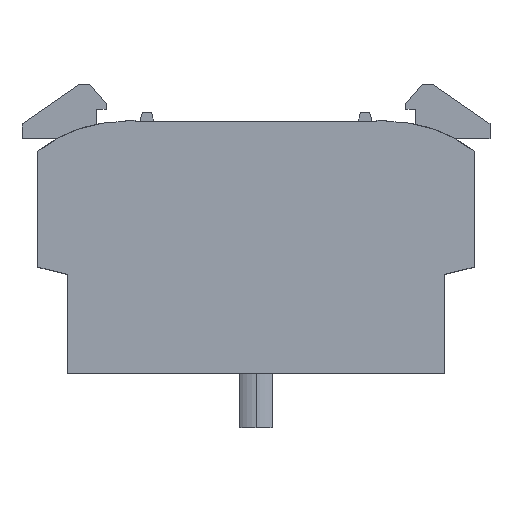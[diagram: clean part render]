
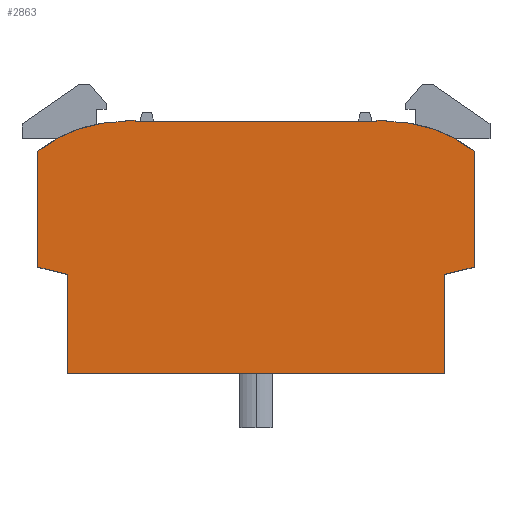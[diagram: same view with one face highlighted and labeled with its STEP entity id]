
A CAD part, top view. The second image highlights one B-rep face of the part: STEP entity #2863.
In plain terms, the highlighted planar face has unit normal (0, 0, 1).
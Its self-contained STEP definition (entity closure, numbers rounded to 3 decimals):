
#343 = ORIENTED_EDGE ( 'NONE', *, *, #2521, .T. ) ;
#344 = ORIENTED_EDGE ( 'NONE', *, *, #2524, .T. ) ;
#345 = ORIENTED_EDGE ( 'NONE', *, *, #2527, .T. ) ;
#346 = ORIENTED_EDGE ( 'NONE', *, *, #1746, .T. ) ;
#347 = ORIENTED_EDGE ( 'NONE', *, *, #2310, .T. ) ;
#348 = ORIENTED_EDGE ( 'NONE', *, *, #1749, .T. ) ;
#349 = ORIENTED_EDGE ( 'NONE', *, *, #1752, .T. ) ;
#350 = ORIENTED_EDGE ( 'NONE', *, *, #1755, .T. ) ;
#351 = ORIENTED_EDGE ( 'NONE', *, *, #1761, .T. ) ;
#352 = ORIENTED_EDGE ( 'NONE', *, *, #2295, .T. ) ;
#353 = ORIENTED_EDGE ( 'NONE', *, *, #1765, .T. ) ;
#354 = ORIENTED_EDGE ( 'NONE', *, *, #1768, .T. ) ;
#355 = ORIENTED_EDGE ( 'NONE', *, *, #1737, .T. ) ;
#356 = ORIENTED_EDGE ( 'NONE', *, *, #1770, .T. ) ;
#357 = ORIENTED_EDGE ( 'NONE', *, *, #2493, .T. ) ;
#358 = ORIENTED_EDGE ( 'NONE', *, *, #2508, .T. ) ;
#1151 = LINE ( 'NONE', #1152, #4851 ) ;
#1152 = CARTESIAN_POINT ( 'NONE',  ( -22., -3., 4.95 ) ) ;
#1153 = DIRECTION ( 'NONE',  ( 0., -1., 0. ) ) ;
#1196 = LINE ( 'NONE', #1197, #4866 ) ;
#1197 = CARTESIAN_POINT ( 'NONE',  ( -12.2, 0., 4.95 ) ) ;
#1198 = DIRECTION ( 'NONE',  ( -1., 0., 0. ) ) ;
#1209 = CARTESIAN_POINT ( 'NONE',  ( -22., -3., 4.95 ) ) ;
#1213 = CARTESIAN_POINT ( 'NONE',  ( -12.2, 0., 4.95 ) ) ;
#1216 = CARTESIAN_POINT ( 'NONE',  ( 22., -14.7, 4.95 ) ) ;
#1220 = CARTESIAN_POINT ( 'NONE',  ( 12.2, 0., 4.95 ) ) ;
#1225 = CARTESIAN_POINT ( 'NONE',  ( 19., -15.448, 4.95 ) ) ;
#1236 = CARTESIAN_POINT ( 'NONE',  ( 22., -3., 4.95 ) ) ;
#1238 = CARTESIAN_POINT ( 'NONE',  ( 13.2, 0., 4.95 ) ) ;
#1241 = CARTESIAN_POINT ( 'NONE',  ( -13.2, 0.1, 4.95 ) ) ;
#1243 = CARTESIAN_POINT ( 'NONE',  ( -13.2, 0., 4.95 ) ) ;
#1244 = CARTESIAN_POINT ( 'NONE',  ( -19., -15.448, 4.95 ) ) ;
#1246 = CARTESIAN_POINT ( 'NONE',  ( 13.2, 0.1, 4.95 ) ) ;
#1248 = CARTESIAN_POINT ( 'NONE',  ( 12.2, 0.1, 4.95 ) ) ;
#1250 = CARTESIAN_POINT ( 'NONE',  ( -12.2, 0.1, 4.95 ) ) ;
#1266 = LINE ( 'NONE', #1276, #4870 ) ;
#1276 = CARTESIAN_POINT ( 'NONE',  ( 19., -15.448, 4.95 ) ) ;
#1277 = DIRECTION ( 'NONE',  ( 0.97, 0.242, 0. ) ) ;
#1307 = LINE ( 'NONE', #1324, #2586 ) ;
#1324 = CARTESIAN_POINT ( 'NONE',  ( 22., -3., 4.95 ) ) ;
#1325 = DIRECTION ( 'NONE',  ( 0., 1., 0. ) ) ;
#1363 = LINE ( 'NONE', #1381, #2607 ) ;
#1364 = LINE ( 'NONE', #1372, #2603 ) ;
#1365 = CARTESIAN_POINT ( 'NONE',  ( 13.2, -14.407, 4.95 ) ) ;
#1366 = DIRECTION ( 'NONE',  ( 0., 0., 1. ) ) ;
#1367 = DIRECTION ( 'NONE',  ( -1., 0., 0. ) ) ;
#1372 = CARTESIAN_POINT ( 'NONE',  ( 13.2, 0., 4.95 ) ) ;
#1373 = DIRECTION ( 'NONE',  ( 0., 1., 0. ) ) ;
#1381 = CARTESIAN_POINT ( 'NONE',  ( 13.2, 0.1, 4.95 ) ) ;
#1382 = DIRECTION ( 'NONE',  ( -1., 0., 0. ) ) ;
#1737 = EDGE_CURVE ( 'NONE', #2152, #2153, #3358, .T. ) ;
#1746 = EDGE_CURVE ( 'NONE', #2358, #2330, #3399, .T. ) ;
#1749 = EDGE_CURVE ( 'NONE', #2322, #2360, #3395, .T. ) ;
#1752 = EDGE_CURVE ( 'NONE', #2360, #2351, #3403, .T. ) ;
#1755 = EDGE_CURVE ( 'NONE', #2351, #2353, #3407, .T. ) ;
#1761 = EDGE_CURVE ( 'NONE', #2353, #2321, #4675, .T. ) ;
#1765 = EDGE_CURVE ( 'NONE', #2139, #2354, #3448, .T. ) ;
#1768 = EDGE_CURVE ( 'NONE', #2354, #2152, #3465, .T. ) ;
#1770 = EDGE_CURVE ( 'NONE', #2153, #2335, #3471, .T. ) ;
#2139 = VERTEX_POINT ( 'NONE', #4246 ) ;
#2152 = VERTEX_POINT ( 'NONE', #4259 ) ;
#2153 = VERTEX_POINT ( 'NONE', #4260 ) ;
#2295 = EDGE_CURVE ( 'NONE', #2321, #2139, #1151, .T. ) ;
#2310 = EDGE_CURVE ( 'NONE', #2330, #2322, #1196, .T. ) ;
#2321 = VERTEX_POINT ( 'NONE', #1209 ) ;
#2322 = VERTEX_POINT ( 'NONE', #1213 ) ;
#2326 = VERTEX_POINT ( 'NONE', #1216 ) ;
#2330 = VERTEX_POINT ( 'NONE', #1220 ) ;
#2335 = VERTEX_POINT ( 'NONE', #1225 ) ;
#2346 = VERTEX_POINT ( 'NONE', #1236 ) ;
#2348 = VERTEX_POINT ( 'NONE', #1238 ) ;
#2351 = VERTEX_POINT ( 'NONE', #1241 ) ;
#2353 = VERTEX_POINT ( 'NONE', #1243 ) ;
#2354 = VERTEX_POINT ( 'NONE', #1244 ) ;
#2356 = VERTEX_POINT ( 'NONE', #1246 ) ;
#2358 = VERTEX_POINT ( 'NONE', #1248 ) ;
#2360 = VERTEX_POINT ( 'NONE', #1250 ) ;
#2473 = EDGE_LOOP ( 'NONE', ( #343, #344, #345, #346, #347, #348, #349, #350, #351, #352, #353, #354, #355, #356, #357, #358 ) ) ;
#2493 = EDGE_CURVE ( 'NONE', #2335, #2326, #1266, .T. ) ;
#2508 = EDGE_CURVE ( 'NONE', #2326, #2346, #1307, .T. ) ;
#2521 = EDGE_CURVE ( 'NONE', #2346, #2348, #2599, .T. ) ;
#2524 = EDGE_CURVE ( 'NONE', #2348, #2356, #1364, .T. ) ;
#2527 = EDGE_CURVE ( 'NONE', #2356, #2358, #1363, .T. ) ;
#2586 = VECTOR ( 'NONE', #1325, 1000. ) ;
#2599 = CIRCLE ( 'NONE', #2605, 14.407 ) ;
#2603 = VECTOR ( 'NONE', #1373, 1000. ) ;
#2605 = AXIS2_PLACEMENT_3D ( 'NONE', #1365, #1366, #1367 ) ;
#2607 = VECTOR ( 'NONE', #1382, 1000. ) ;
#2749 = AXIS2_PLACEMENT_3D ( 'NONE', #3915, #3926, #3927 ) ;
#2863 = ADVANCED_FACE ( 'NONE', ( #3923 ), #3924, .F. ) ;
#3358 = LINE ( 'NONE', #3373, #4644 ) ;
#3373 = CARTESIAN_POINT ( 'NONE',  ( -19., -25.4, 4.95 ) ) ;
#3374 = DIRECTION ( 'NONE',  ( 1., 0., 0. ) ) ;
#3395 = LINE ( 'NONE', #3409, #4660 ) ;
#3399 = LINE ( 'NONE', #3400, #4658 ) ;
#3400 = CARTESIAN_POINT ( 'NONE',  ( 12.2, 0., 4.95 ) ) ;
#3401 = DIRECTION ( 'NONE',  ( 0., -1., 0. ) ) ;
#3403 = LINE ( 'NONE', #3417, #4661 ) ;
#3407 = LINE ( 'NONE', #3426, #4664 ) ;
#3409 = CARTESIAN_POINT ( 'NONE',  ( -12.2, 0., 4.95 ) ) ;
#3410 = DIRECTION ( 'NONE',  ( 0., 1., 0. ) ) ;
#3417 = CARTESIAN_POINT ( 'NONE',  ( -13.2, 0.1, 4.95 ) ) ;
#3418 = DIRECTION ( 'NONE',  ( -1., 0., 0. ) ) ;
#3426 = CARTESIAN_POINT ( 'NONE',  ( -13.2, 0., 4.95 ) ) ;
#3427 = DIRECTION ( 'NONE',  ( 0., -1., 0. ) ) ;
#3444 = CARTESIAN_POINT ( 'NONE',  ( -13.2, -14.407, 4.95 ) ) ;
#3445 = DIRECTION ( 'NONE',  ( 0., 0., 1. ) ) ;
#3446 = DIRECTION ( 'NONE',  ( 1., 0., 0. ) ) ;
#3448 = LINE ( 'NONE', #3457, #4669 ) ;
#3457 = CARTESIAN_POINT ( 'NONE',  ( -22., -14.7, 4.95 ) ) ;
#3458 = DIRECTION ( 'NONE',  ( 0.97, -0.242, 0. ) ) ;
#3465 = LINE ( 'NONE', #3466, #4685 ) ;
#3466 = CARTESIAN_POINT ( 'NONE',  ( -19., -15.448, 4.95 ) ) ;
#3467 = DIRECTION ( 'NONE',  ( 0., -1., 0. ) ) ;
#3471 = LINE ( 'NONE', #3472, #4687 ) ;
#3472 = CARTESIAN_POINT ( 'NONE',  ( 19., -15.448, 4.95 ) ) ;
#3473 = DIRECTION ( 'NONE',  ( 0., 1., 0. ) ) ;
#3915 = CARTESIAN_POINT ( 'NONE',  ( 13.2, -14.407, 4.95 ) ) ;
#3923 = FACE_OUTER_BOUND ( 'NONE', #2473, .T. ) ;
#3924 = PLANE ( 'NONE',  #2749 ) ;
#3926 = DIRECTION ( 'NONE',  ( 0., 0., -1. ) ) ;
#3927 = DIRECTION ( 'NONE',  ( -1., 0., 0. ) ) ;
#4246 = CARTESIAN_POINT ( 'NONE',  ( -22., -14.7, 4.95 ) ) ;
#4259 = CARTESIAN_POINT ( 'NONE',  ( -19., -25.4, 4.95 ) ) ;
#4260 = CARTESIAN_POINT ( 'NONE',  ( 19., -25.4, 4.95 ) ) ;
#4644 = VECTOR ( 'NONE', #3374, 1000. ) ;
#4658 = VECTOR ( 'NONE', #3401, 1000. ) ;
#4660 = VECTOR ( 'NONE', #3410, 1000. ) ;
#4661 = VECTOR ( 'NONE', #3418, 1000. ) ;
#4664 = VECTOR ( 'NONE', #3427, 1000. ) ;
#4669 = VECTOR ( 'NONE', #3458, 1000. ) ;
#4675 = CIRCLE ( 'NONE', #4678, 14.407 ) ;
#4678 = AXIS2_PLACEMENT_3D ( 'NONE', #3444, #3445, #3446 ) ;
#4685 = VECTOR ( 'NONE', #3467, 1000. ) ;
#4687 = VECTOR ( 'NONE', #3473, 1000. ) ;
#4851 = VECTOR ( 'NONE', #1153, 1000. ) ;
#4866 = VECTOR ( 'NONE', #1198, 1000. ) ;
#4870 = VECTOR ( 'NONE', #1277, 1000. ) ;
